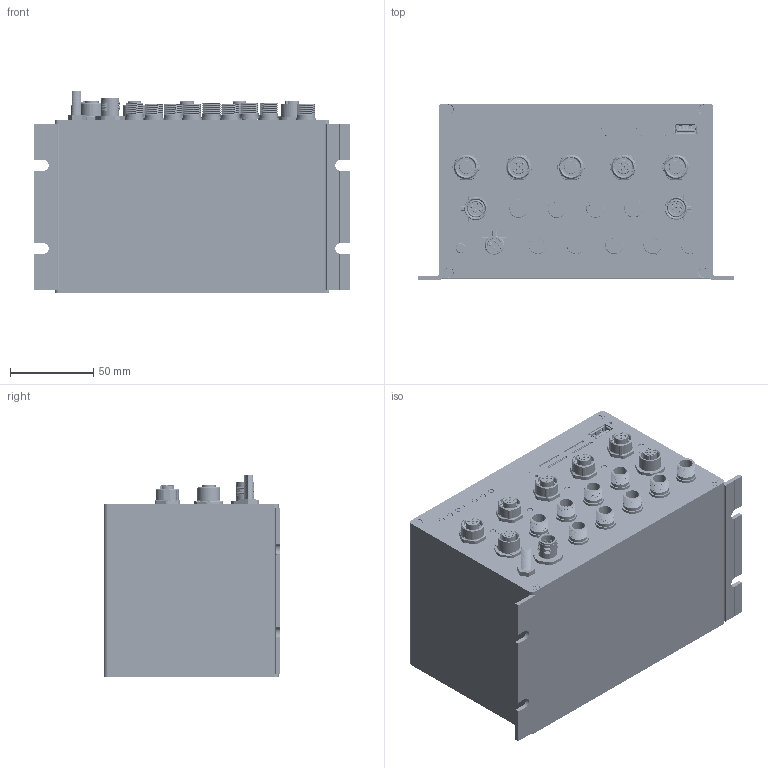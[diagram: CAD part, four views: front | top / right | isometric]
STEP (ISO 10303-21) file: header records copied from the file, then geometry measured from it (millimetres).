
FILE_DESCRIPTION(/* description */ ('Alibre Inc.'),/* implementation_level */ '2;1');
FILE_NAME(/* name */ 'export0',/* time_stamp */ '2016-06-21T15:22:34+02:00',/* author */ (''),/* organization */ (''),/* preprocessor_version */ 'ST-DEVELOPER v12',/* originating_system */ 'Alibre',/* authorisation */ '');
FILE_SCHEMA (('AUTOMOTIVE_DESIGN'));
Products named in the file (161): SACC-E-FS-8CON-M16_05_SW0001
Bounding box: 190 x 106 x 121.92 mm (x, y, z)
Volume: 409983.3 mm3; surface area: 392332.8 mm2
Topology: 264 solids, 264 shells, 20633 faces, 57967 edges, 38088 vertices
Faces by surface type: plane 14854, cylinder 4630, bspline 462, cone 353, torus 285, sphere 49
Full cylindrical faces by diameter (mm): 0.7 x64, 0.9 x1, 1 x39, 1.1 x5, 1.2 x16, 1.3 x20, 1.5 x9, 1.8 x2, 2.013 x2, 2.1 x10, 2.35 x2, 2.4 x2, 2.9 x210, 3 x21, 3.2 x4, 3.6 x12, 4 x9, 6 x1, 6.2 x1, 8 x9, 11 x144, 12.5 x9, 14 x1, 20 x5
Entity records: 306167 total; most frequent: CARTESIAN_POINT 74263, ORIENTED_EDGE 50176, DIRECTION 40457, EDGE_CURVE 25080, VECTOR 20422, LINE 20422, VERTEX_POINT 16510, AXIS2_PLACEMENT_3D 13312
